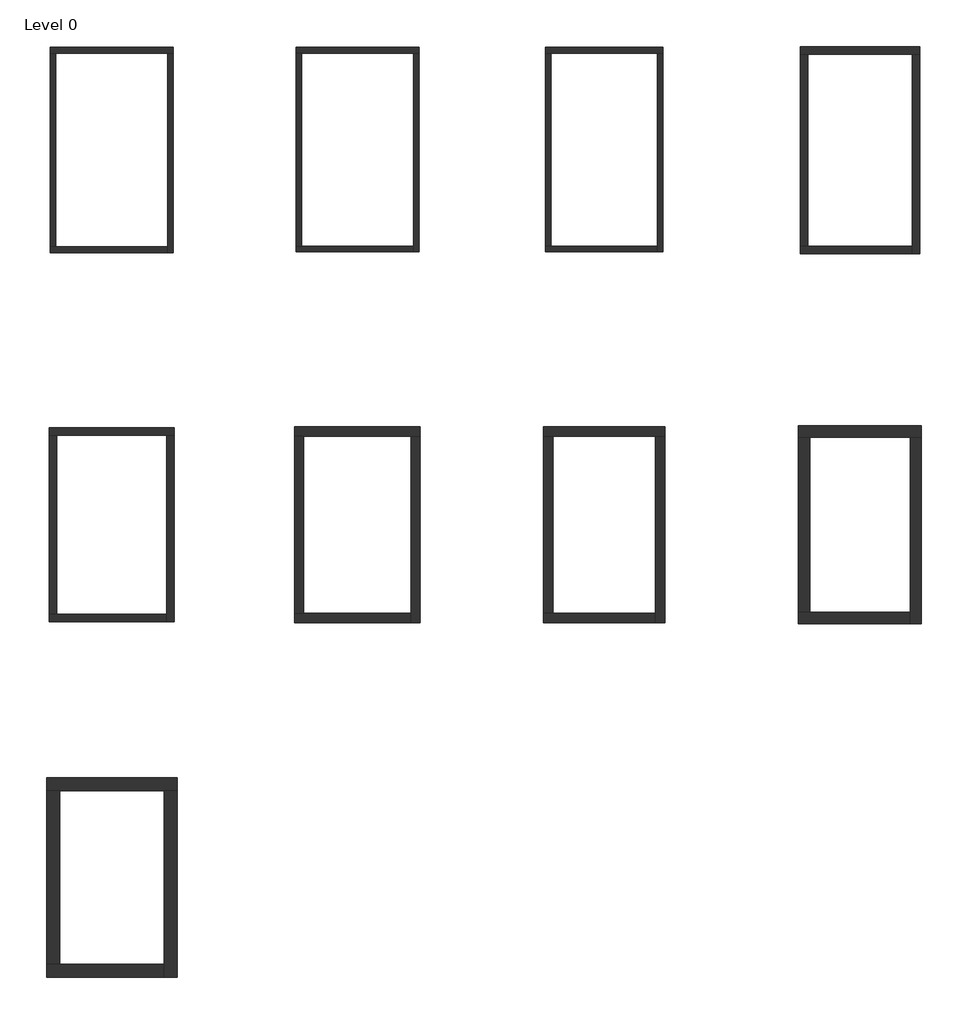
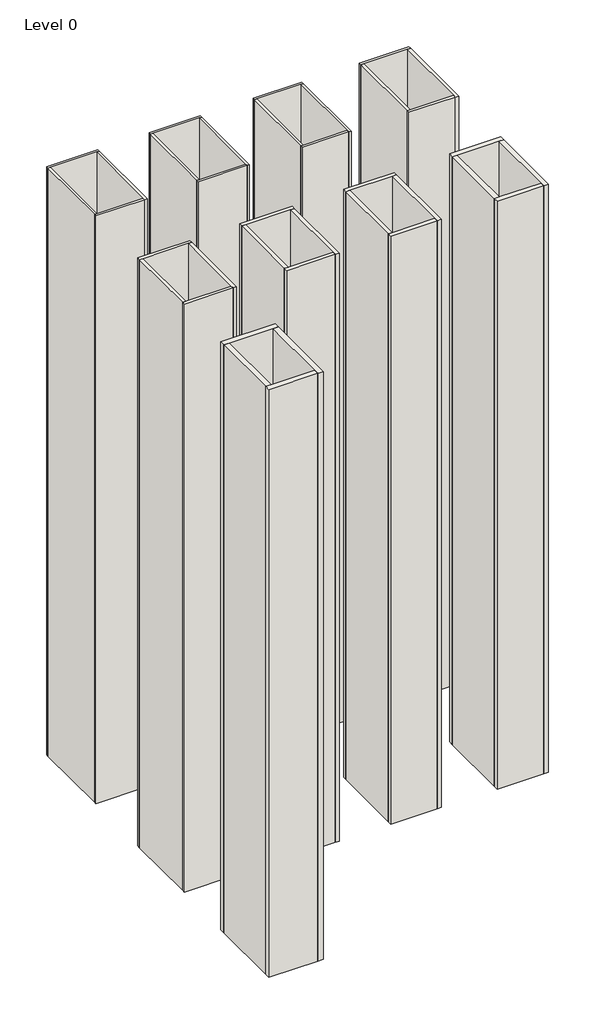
# One storey, incomplete: 36 walls.
"""IFC4 building model written with IfcOpenShell, lengths in millimetres."""

from ifc_helpers import new_model, si_unit, origin, origin_with_axes, place, context, project, spatial, polyline, outline, extrude, faceted_brep, element, save

model = new_model("IFC4")

# Units and contexts
model_context = context("Model", 3, world=origin())
ifc_project = project(units=[si_unit("LENGTHUNIT", "METRE", prefix="MILLI")], contexts=[model_context])

# Site, building, storey
site = spatial("IfcSite", under=ifc_project)
building = spatial("IfcBuilding", under=site)
storey = spatial("IfcBuildingStorey", under=building, Name="Level 0", Elevation=0.0)

# Walls
placement = place(None, origin())
element("IfcWall", 1, ObjectType="D120001 (FC120-1)", at=placement, inside=storey, context=model_context, shape_type="Brep", body=[
    faceted_brep([(657.4421875, 971.4110433, 0.0), (672.4421875, 971.4110433, 0.0), (957.4421875, 971.4110433, 0.0), (972.4421875, 971.4110433, 0.0), (972.4421875, 971.4110433, 4000.0), (957.4421875, 971.4110433, 4000.0), (672.4421875, 971.4110433, 4000.0), (657.4421875, 971.4110433, 4000.0), (657.4421875, 986.4110433, 0.0), (657.4421875, 986.4110433, 4000.0), (972.4421875, 986.4110433, 4000.0), (972.4421875, 986.4110433, 0.0)], [[[0, 1, 2, 3, 4, 5, 6, 7]], [[8, 9, 10, 11]], [[3, 2, 1, 0, 8, 11]], [[7, 6, 5, 4, 10, 9]], [[4, 3, 11, 10]], [[0, 7, 9, 8]]]),
])
element("IfcWall", 2, ObjectType="D120001 (FC120-1)", at=placement, inside=storey, context=model_context, shape_type="Brep", body=[
    faceted_brep([(957.4421875, 971.4110433, 0.0), (957.4421875, 453.9110433, 0.0), (957.4421875, 438.9110433, 0.0), (957.4421875, 438.9110433, 4000.0), (957.4421875, 453.9110433, 4000.0), (957.4421875, 971.4110433, 4000.0), (972.4421875, 971.4110433, 0.0), (972.4421875, 971.4110433, 4000.0), (972.4421875, 438.9110433, 4000.0), (972.4421875, 438.9110433, 0.0)], [[[0, 1, 2, 3, 4, 5]], [[6, 7, 8, 9]], [[2, 1, 0, 6, 9]], [[5, 4, 3, 8, 7]], [[0, 5, 7, 6]], [[3, 2, 9, 8]]]),
])
element("IfcWall", 3, ObjectType="D120001 (FC120-1)", at=placement, inside=storey, context=model_context, shape_type="Brep", body=[
    faceted_brep([(957.4421875, 453.9110433, 0.0), (672.4421875, 453.9110433, 0.0), (657.4421875, 453.9110433, 0.0), (657.4421875, 453.9110433, 4000.0), (672.4421875, 453.9110433, 4000.0), (957.4421875, 453.9110433, 4000.0), (957.4421875, 438.9110433, 0.0), (957.4421875, 438.9110433, 4000.0), (657.4421875, 438.9110433, 4000.0), (657.4421875, 438.9110433, 0.0)], [[[0, 1, 2, 3, 4, 5]], [[6, 7, 8, 9]], [[2, 1, 0, 6, 9]], [[5, 4, 3, 8, 7]], [[0, 5, 7, 6]], [[3, 2, 9, 8]]]),
])
element("IfcWall", 4, ObjectType="D120001 (FC120-1)", at=placement, inside=storey, context=model_context, shape_type="SweptSolid", body=[
    extrude(outline(polyline([(672.4421875, 971.4110433), (672.4421875, 453.9110433), (657.4421875, 453.9110433), (657.4421875, 971.4110433), (672.4421875, 971.4110433)])), origin_with_axes(), (0.0, 0.0, 1.0), 4000.0),
])
element("IfcWall", 5, ObjectType="D120001 (FC120-2)", at=placement, inside=storey, context=model_context, shape_type="Brep", body=[
    faceted_brep([(-673.8078125, -53.5889567, 0.0), (-653.8078125, -53.5889567, 0.0), (-358.8078125, -53.5889567, 0.0), (-338.8078125, -53.5889567, 0.0), (-338.8078125, -53.5889567, 4000.0), (-358.8078125, -53.5889567, 4000.0), (-653.8078125, -53.5889567, 4000.0), (-673.8078125, -53.5889567, 4000.0), (-673.8078125, -33.5889567, 0.0), (-673.8078125, -33.5889567, 4000.0), (-338.8078125, -33.5889567, 4000.0), (-338.8078125, -33.5889567, 0.0)], [[[0, 1, 2, 3, 4, 5, 6, 7]], [[8, 9, 10, 11]], [[3, 2, 1, 0, 8, 11]], [[7, 6, 5, 4, 10, 9]], [[4, 3, 11, 10]], [[0, 7, 9, 8]]]),
])
element("IfcWall", 6, ObjectType="D120001 (FC120-2)", at=placement, inside=storey, context=model_context, shape_type="Brep", body=[
    faceted_brep([(-358.8078125, -53.5889567, 0.0), (-358.8078125, -533.5889567, 0.0), (-358.8078125, -553.5889567, 0.0), (-358.8078125, -553.5889567, 4000.0), (-358.8078125, -533.5889567, 4000.0), (-358.8078125, -53.5889567, 4000.0), (-338.8078125, -53.5889567, 0.0), (-338.8078125, -53.5889567, 4000.0), (-338.8078125, -553.5889567, 4000.0), (-338.8078125, -553.5889567, 0.0)], [[[0, 1, 2, 3, 4, 5]], [[6, 7, 8, 9]], [[2, 1, 0, 6, 9]], [[5, 4, 3, 8, 7]], [[0, 5, 7, 6]], [[3, 2, 9, 8]]]),
])
element("IfcWall", 7, ObjectType="D120001 (FC120-2)", at=placement, inside=storey, context=model_context, shape_type="Brep", body=[
    faceted_brep([(-358.8078125, -533.5889567, 0.0), (-653.8078125, -533.5889567, 0.0), (-673.8078125, -533.5889567, 0.0), (-673.8078125, -533.5889567, 4000.0), (-653.8078125, -533.5889567, 4000.0), (-358.8078125, -533.5889567, 4000.0), (-358.8078125, -553.5889567, 0.0), (-358.8078125, -553.5889567, 4000.0), (-673.8078125, -553.5889567, 4000.0), (-673.8078125, -553.5889567, 0.0)], [[[0, 1, 2, 3, 4, 5]], [[6, 7, 8, 9]], [[2, 1, 0, 6, 9]], [[5, 4, 3, 8, 7]], [[0, 5, 7, 6]], [[3, 2, 9, 8]]]),
])
element("IfcWall", 8, ObjectType="D120001 (FC120-2)", at=placement, inside=storey, context=model_context, shape_type="SweptSolid", body=[
    extrude(outline(polyline([(-653.8078125, -53.5889567), (-653.8078125, -533.5889567), (-673.8078125, -533.5889567), (-673.8078125, -53.5889567), (-653.8078125, -53.5889567)])), origin_with_axes(), (0.0, 0.0, 1.0), 4000.0),
])
element("IfcWall", 9, ObjectType="D120001 (FC120-3)", at=placement, inside=storey, context=model_context, shape_type="Brep", body=[
    faceted_brep([(652.4421875, -56.0889567, 0.0), (677.4421875, -56.0889567, 0.0), (952.4421875, -56.0889567, 0.0), (977.4421875, -56.0889567, 0.0), (977.4421875, -56.0889567, 4000.0), (952.4421875, -56.0889567, 4000.0), (677.4421875, -56.0889567, 4000.0), (652.4421875, -56.0889567, 4000.0), (652.4421875, -31.0889567, 0.0), (652.4421875, -31.0889567, 4000.0), (977.4421875, -31.0889567, 4000.0), (977.4421875, -31.0889567, 0.0)], [[[0, 1, 2, 3, 4, 5, 6, 7]], [[8, 9, 10, 11]], [[3, 2, 1, 0, 8, 11]], [[7, 6, 5, 4, 10, 9]], [[4, 3, 11, 10]], [[0, 7, 9, 8]]]),
])
element("IfcWall", 10, ObjectType="D120001 (FC120-3)", at=placement, inside=storey, context=model_context, shape_type="Brep", body=[
    faceted_brep([(952.4421875, -56.0889567, 0.0), (952.4421875, -531.0889567, 0.0), (952.4421875, -556.0889567, 0.0), (952.4421875, -556.0889567, 4000.0), (952.4421875, -531.0889567, 4000.0), (952.4421875, -56.0889567, 4000.0), (977.4421875, -56.0889567, 0.0), (977.4421875, -56.0889567, 4000.0), (977.4421875, -556.0889567, 4000.0), (977.4421875, -556.0889567, 0.0)], [[[0, 1, 2, 3, 4, 5]], [[6, 7, 8, 9]], [[2, 1, 0, 6, 9]], [[5, 4, 3, 8, 7]], [[0, 5, 7, 6]], [[3, 2, 9, 8]]]),
])
element("IfcWall", 11, ObjectType="D120001 (FC120-3)", at=placement, inside=storey, context=model_context, shape_type="Brep", body=[
    faceted_brep([(952.4421875, -531.0889567, 0.0), (677.4421875, -531.0889567, 0.0), (652.4421875, -531.0889567, 0.0), (652.4421875, -531.0889567, 4000.0), (677.4421875, -531.0889567, 4000.0), (952.4421875, -531.0889567, 4000.0), (952.4421875, -556.0889567, 0.0), (952.4421875, -556.0889567, 4000.0), (652.4421875, -556.0889567, 4000.0), (652.4421875, -556.0889567, 0.0)], [[[0, 1, 2, 3, 4, 5]], [[6, 7, 8, 9]], [[2, 1, 0, 6, 9]], [[5, 4, 3, 8, 7]], [[0, 5, 7, 6]], [[3, 2, 9, 8]]]),
])
element("IfcWall", 12, ObjectType="D120001 (FC120-3)", at=placement, inside=storey, context=model_context, shape_type="SweptSolid", body=[
    extrude(outline(polyline([(677.4421875, -56.0889567), (677.4421875, -531.0889567), (652.4421875, -531.0889567), (652.4421875, -56.0889567), (677.4421875, -56.0889567)])), origin_with_axes(), (0.0, 0.0, 1.0), 4000.0),
])
element("IfcWall", 13, ObjectType="D120001 (FC120-4)", at=placement, inside=storey, context=model_context, shape_type="Brep", body=[
    faceted_brep([(1336.1921875, -58.5889567, 0.0), (1366.1921875, -58.5889567, 0.0), (1636.1921875, -58.5889567, 0.0), (1666.1921875, -58.5889567, 0.0), (1666.1921875, -58.5889567, 4000.0), (1636.1921875, -58.5889567, 4000.0), (1366.1921875, -58.5889567, 4000.0), (1336.1921875, -58.5889567, 4000.0), (1336.1921875, -28.5889567, 0.0), (1336.1921875, -28.5889567, 4000.0), (1666.1921875, -28.5889567, 4000.0), (1666.1921875, -28.5889567, 0.0)], [[[0, 1, 2, 3, 4, 5, 6, 7]], [[8, 9, 10, 11]], [[3, 2, 1, 0, 8, 11]], [[7, 6, 5, 4, 10, 9]], [[4, 3, 11, 10]], [[0, 7, 9, 8]]]),
])
element("IfcWall", 14, ObjectType="D120001 (FC120-4)", at=placement, inside=storey, context=model_context, shape_type="Brep", body=[
    faceted_brep([(1636.1921875, -58.5889567, 0.0), (1636.1921875, -528.5889567, 0.0), (1636.1921875, -558.5889567, 0.0), (1636.1921875, -558.5889567, 4000.0), (1636.1921875, -528.5889567, 4000.0), (1636.1921875, -58.5889567, 4000.0), (1666.1921875, -58.5889567, 0.0), (1666.1921875, -58.5889567, 4000.0), (1666.1921875, -558.5889567, 4000.0), (1666.1921875, -558.5889567, 0.0)], [[[0, 1, 2, 3, 4, 5]], [[6, 7, 8, 9]], [[2, 1, 0, 6, 9]], [[5, 4, 3, 8, 7]], [[0, 5, 7, 6]], [[3, 2, 9, 8]]]),
])
element("IfcWall", 15, ObjectType="D120001 (FC120-4)", at=placement, inside=storey, context=model_context, shape_type="Brep", body=[
    faceted_brep([(1636.1921875, -528.5889567, 0.0), (1366.1921875, -528.5889567, 0.0), (1336.1921875, -528.5889567, 0.0), (1336.1921875, -528.5889567, 4000.0), (1366.1921875, -528.5889567, 4000.0), (1636.1921875, -528.5889567, 4000.0), (1636.1921875, -558.5889567, 0.0), (1636.1921875, -558.5889567, 4000.0), (1336.1921875, -558.5889567, 4000.0), (1336.1921875, -558.5889567, 0.0)], [[[0, 1, 2, 3, 4, 5]], [[6, 7, 8, 9]], [[2, 1, 0, 6, 9]], [[5, 4, 3, 8, 7]], [[0, 5, 7, 6]], [[3, 2, 9, 8]]]),
])
element("IfcWall", 16, ObjectType="D120001 (FC120-4)", at=placement, inside=storey, context=model_context, shape_type="SweptSolid", body=[
    extrude(outline(polyline([(1366.1921875, -58.5889567), (1366.1921875, -528.5889567), (1336.1921875, -528.5889567), (1336.1921875, -58.5889567), (1366.1921875, -58.5889567)])), origin_with_axes(), (0.0, 0.0, 1.0), 4000.0),
])
element("IfcWall", 17, ObjectType="D120001 (FC120-5)", at=placement, inside=storey, context=model_context, shape_type="Brep", body=[
    faceted_brep([(-681.3078125, -1007.3389567, 0.0), (-646.3078125, -1007.3389567, 0.0), (-366.3078125, -1007.3389567, 0.0), (-331.3078125, -1007.3389567, 0.0), (-331.3078125, -1007.3389567, 4000.0), (-366.3078125, -1007.3389567, 4000.0), (-646.3078125, -1007.3389567, 4000.0), (-681.3078125, -1007.3389567, 4000.0), (-681.3078125, -972.3389567, 0.0), (-681.3078125, -972.3389567, 4000.0), (-331.3078125, -972.3389567, 4000.0), (-331.3078125, -972.3389567, 0.0)], [[[0, 1, 2, 3, 4, 5, 6, 7]], [[8, 9, 10, 11]], [[3, 2, 1, 0, 8, 11]], [[7, 6, 5, 4, 10, 9]], [[4, 3, 11, 10]], [[0, 7, 9, 8]]]),
])
element("IfcWall", 18, ObjectType="D120001 (FC120-5)", at=placement, inside=storey, context=model_context, shape_type="Brep", body=[
    faceted_brep([(-366.3078125, -1007.3389567, 0.0), (-366.3078125, -1472.3389567, 0.0), (-366.3078125, -1507.3389567, 0.0), (-366.3078125, -1507.3389567, 4000.0), (-366.3078125, -1472.3389567, 4000.0), (-366.3078125, -1007.3389567, 4000.0), (-331.3078125, -1007.3389567, 0.0), (-331.3078125, -1007.3389567, 4000.0), (-331.3078125, -1507.3389567, 4000.0), (-331.3078125, -1507.3389567, 0.0)], [[[0, 1, 2, 3, 4, 5]], [[6, 7, 8, 9]], [[2, 1, 0, 6, 9]], [[5, 4, 3, 8, 7]], [[0, 5, 7, 6]], [[3, 2, 9, 8]]]),
])
element("IfcWall", 19, ObjectType="D120001 (FC120-5)", at=placement, inside=storey, context=model_context, shape_type="Brep", body=[
    faceted_brep([(-366.3078125, -1472.3389567, 0.0), (-646.3078125, -1472.3389567, 0.0), (-681.3078125, -1472.3389567, 0.0), (-681.3078125, -1472.3389567, 4000.0), (-646.3078125, -1472.3389567, 4000.0), (-366.3078125, -1472.3389567, 4000.0), (-366.3078125, -1507.3389567, 0.0), (-366.3078125, -1507.3389567, 4000.0), (-681.3078125, -1507.3389567, 4000.0), (-681.3078125, -1507.3389567, 0.0)], [[[0, 1, 2, 3, 4, 5]], [[6, 7, 8, 9]], [[2, 1, 0, 6, 9]], [[5, 4, 3, 8, 7]], [[0, 5, 7, 6]], [[3, 2, 9, 8]]]),
])
element("IfcWall", 20, ObjectType="D120001 (FC120-5)", at=placement, inside=storey, context=model_context, shape_type="SweptSolid", body=[
    extrude(outline(polyline([(-646.3078125, -1007.3389567), (-646.3078125, -1472.3389567), (-681.3078125, -1472.3389567), (-681.3078125, -1007.3389567), (-646.3078125, -1007.3389567)])), origin_with_axes(), (0.0, 0.0, 1.0), 4000.0),
])
element("IfcWall", 21, ObjectType="D120001 (FC60-1)", at=placement, inside=storey, context=model_context, shape_type="Brep", body=[
    faceted_brep([(-671.3078125, 971.4110433, 0.0), (-656.3078125, 971.4110433, 0.0), (-356.3078125, 971.4110433, 0.0), (-341.3078125, 971.4110433, 0.0), (-341.3078125, 971.4110433, 4000.0), (-356.3078125, 971.4110433, 4000.0), (-656.3078125, 971.4110433, 4000.0), (-671.3078125, 971.4110433, 4000.0), (-671.3078125, 986.4110433, 0.0), (-671.3078125, 986.4110433, 4000.0), (-341.3078125, 986.4110433, 4000.0), (-341.3078125, 986.4110433, 0.0)], [[[0, 1, 2, 3, 4, 5, 6, 7]], [[8, 9, 10, 11]], [[3, 2, 1, 0, 8, 11]], [[7, 6, 5, 4, 10, 9]], [[4, 3, 11, 10]], [[0, 7, 9, 8]]]),
])
element("IfcWall", 22, ObjectType="D120001 (FC60-1)", at=placement, inside=storey, context=model_context, shape_type="Brep", body=[
    faceted_brep([(-356.3078125, 971.4110433, 0.0), (-356.3078125, 451.4110433, 0.0), (-356.3078125, 436.4110433, 0.0), (-356.3078125, 436.4110433, 4000.0), (-356.3078125, 451.4110433, 4000.0), (-356.3078125, 971.4110433, 4000.0), (-341.3078125, 971.4110433, 0.0), (-341.3078125, 971.4110433, 4000.0), (-341.3078125, 436.4110433, 4000.0), (-341.3078125, 436.4110433, 0.0)], [[[0, 1, 2, 3, 4, 5]], [[6, 7, 8, 9]], [[2, 1, 0, 6, 9]], [[5, 4, 3, 8, 7]], [[0, 5, 7, 6]], [[3, 2, 9, 8]]]),
])
element("IfcWall", 23, ObjectType="D120001 (FC60-1)", at=placement, inside=storey, context=model_context, shape_type="Brep", body=[
    faceted_brep([(-356.3078125, 451.4110433, 0.0), (-656.3078125, 451.4110433, 0.0), (-671.3078125, 451.4110433, 0.0), (-671.3078125, 451.4110433, 4000.0), (-656.3078125, 451.4110433, 4000.0), (-356.3078125, 451.4110433, 4000.0), (-356.3078125, 436.4110433, 0.0), (-356.3078125, 436.4110433, 4000.0), (-671.3078125, 436.4110433, 4000.0), (-671.3078125, 436.4110433, 0.0)], [[[0, 1, 2, 3, 4, 5]], [[6, 7, 8, 9]], [[2, 1, 0, 6, 9]], [[5, 4, 3, 8, 7]], [[0, 5, 7, 6]], [[3, 2, 9, 8]]]),
])
element("IfcWall", 24, ObjectType="D120001 (FC60-1)", at=placement, inside=storey, context=model_context, shape_type="SweptSolid", body=[
    extrude(outline(polyline([(-656.3078125, 971.4110433), (-656.3078125, 451.4110433), (-671.3078125, 451.4110433), (-671.3078125, 971.4110433), (-656.3078125, 971.4110433)])), origin_with_axes(), (0.0, 0.0, 1.0), 4000.0),
])
element("IfcWall", 25, ObjectType="D120001 (FC90-1)", at=placement, inside=storey, context=model_context, shape_type="Brep", body=[
    faceted_brep([(-11.3078125, 971.4110433, 0.0), (3.6921875, 971.4110433, 0.0), (303.6921875, 971.4110433, 0.0), (318.6921875, 971.4110433, 0.0), (318.6921875, 971.4110433, 4000.0), (303.6921875, 971.4110433, 4000.0), (3.6921875, 971.4110433, 4000.0), (-11.3078125, 971.4110433, 4000.0), (-11.3078125, 986.4110433, 0.0), (-11.3078125, 986.4110433, 4000.0), (318.6921875, 986.4110433, 4000.0), (318.6921875, 986.4110433, 0.0)], [[[0, 1, 2, 3, 4, 5, 6, 7]], [[8, 9, 10, 11]], [[3, 2, 1, 0, 8, 11]], [[7, 6, 5, 4, 10, 9]], [[4, 3, 11, 10]], [[0, 7, 9, 8]]]),
])
element("IfcWall", 26, ObjectType="D120001 (FC90-1)", at=placement, inside=storey, context=model_context, shape_type="Brep", body=[
    faceted_brep([(303.6921875, 971.4110433, 0.0), (303.6921875, 453.9110433, 0.0), (303.6921875, 438.9110433, 0.0), (303.6921875, 438.9110433, 4000.0), (303.6921875, 453.9110433, 4000.0), (303.6921875, 971.4110433, 4000.0), (318.6921875, 971.4110433, 0.0), (318.6921875, 971.4110433, 4000.0), (318.6921875, 438.9110433, 4000.0), (318.6921875, 438.9110433, 0.0)], [[[0, 1, 2, 3, 4, 5]], [[6, 7, 8, 9]], [[2, 1, 0, 6, 9]], [[5, 4, 3, 8, 7]], [[0, 5, 7, 6]], [[3, 2, 9, 8]]]),
])
element("IfcWall", 27, ObjectType="D120001 (FC90-1)", at=placement, inside=storey, context=model_context, shape_type="Brep", body=[
    faceted_brep([(303.6921875, 453.9110433, 0.0), (3.6921875, 453.9110433, 0.0), (-11.3078125, 453.9110433, 0.0), (-11.3078125, 453.9110433, 4000.0), (3.6921875, 453.9110433, 4000.0), (303.6921875, 453.9110433, 4000.0), (303.6921875, 438.9110433, 0.0), (303.6921875, 438.9110433, 4000.0), (-11.3078125, 438.9110433, 4000.0), (-11.3078125, 438.9110433, 0.0)], [[[0, 1, 2, 3, 4, 5]], [[6, 7, 8, 9]], [[2, 1, 0, 6, 9]], [[5, 4, 3, 8, 7]], [[0, 5, 7, 6]], [[3, 2, 9, 8]]]),
])
element("IfcWall", 28, ObjectType="D120001 (FC90-1)", at=placement, inside=storey, context=model_context, shape_type="SweptSolid", body=[
    extrude(outline(polyline([(3.6921875, 971.4110433), (3.6921875, 453.9110433), (-11.3078125, 453.9110433), (-11.3078125, 971.4110433), (3.6921875, 971.4110433)])), origin_with_axes(), (0.0, 0.0, 1.0), 4000.0),
])
element("IfcWall", 29, ObjectType="D120001 (FC90-2)", at=placement, inside=storey, context=model_context, shape_type="Brep", body=[
    faceted_brep([(1341.1921875, 968.9110433, 0.0), (1361.1921875, 968.9110433, 0.0), (1641.1921875, 968.9110433, 0.0), (1661.1921875, 968.9110433, 0.0), (1661.1921875, 968.9110433, 4000.0), (1641.1921875, 968.9110433, 4000.0), (1361.1921875, 968.9110433, 4000.0), (1341.1921875, 968.9110433, 4000.0), (1341.1921875, 988.9110433, 0.0), (1341.1921875, 988.9110433, 4000.0), (1661.1921875, 988.9110433, 4000.0), (1661.1921875, 988.9110433, 0.0)], [[[0, 1, 2, 3, 4, 5, 6, 7]], [[8, 9, 10, 11]], [[3, 2, 1, 0, 8, 11]], [[7, 6, 5, 4, 10, 9]], [[4, 3, 11, 10]], [[0, 7, 9, 8]]]),
])
element("IfcWall", 30, ObjectType="D120001 (FC90-2)", at=placement, inside=storey, context=model_context, shape_type="Brep", body=[
    faceted_brep([(1641.1921875, 968.9110433, 0.0), (1641.1921875, 453.9110433, 0.0), (1641.1921875, 433.9110433, 0.0), (1641.1921875, 433.9110433, 4000.0), (1641.1921875, 453.9110433, 4000.0), (1641.1921875, 968.9110433, 4000.0), (1661.1921875, 968.9110433, 0.0), (1661.1921875, 968.9110433, 4000.0), (1661.1921875, 433.9110433, 4000.0), (1661.1921875, 433.9110433, 0.0)], [[[0, 1, 2, 3, 4, 5]], [[6, 7, 8, 9]], [[2, 1, 0, 6, 9]], [[5, 4, 3, 8, 7]], [[0, 5, 7, 6]], [[3, 2, 9, 8]]]),
])
element("IfcWall", 31, ObjectType="D120001 (FC90-2)", at=placement, inside=storey, context=model_context, shape_type="Brep", body=[
    faceted_brep([(1641.1921875, 453.9110433, 0.0), (1361.1921875, 453.9110433, 0.0), (1341.1921875, 453.9110433, 0.0), (1341.1921875, 453.9110433, 4000.0), (1361.1921875, 453.9110433, 4000.0), (1641.1921875, 453.9110433, 4000.0), (1641.1921875, 433.9110433, 0.0), (1641.1921875, 433.9110433, 4000.0), (1341.1921875, 433.9110433, 4000.0), (1341.1921875, 433.9110433, 0.0)], [[[0, 1, 2, 3, 4, 5]], [[6, 7, 8, 9]], [[2, 1, 0, 6, 9]], [[5, 4, 3, 8, 7]], [[0, 5, 7, 6]], [[3, 2, 9, 8]]]),
])
element("IfcWall", 32, ObjectType="D120001 (FC90-2)", at=placement, inside=storey, context=model_context, shape_type="SweptSolid", body=[
    extrude(outline(polyline([(1361.1921875, 968.9110433), (1361.1921875, 453.9110433), (1341.1921875, 453.9110433), (1341.1921875, 968.9110433), (1361.1921875, 968.9110433)])), origin_with_axes(), (0.0, 0.0, 1.0), 4000.0),
])
element("IfcWall", 33, ObjectType="D120001 (FC90-3)", at=placement, inside=storey, context=model_context, shape_type="Brep", body=[
    faceted_brep([(-16.3078125, -56.0889567, 0.0), (8.6921875, -56.0889567, 0.0), (296.1921875, -56.0889567, 0.0), (321.1921875, -56.0889567, 0.0), (321.1921875, -56.0889567, 4000.0), (296.1921875, -56.0889567, 4000.0), (8.6921875, -56.0889567, 4000.0), (-16.3078125, -56.0889567, 4000.0), (-16.3078125, -31.0889567, 0.0), (-16.3078125, -31.0889567, 4000.0), (321.1921875, -31.0889567, 4000.0), (321.1921875, -31.0889567, 0.0)], [[[0, 1, 2, 3, 4, 5, 6, 7]], [[8, 9, 10, 11]], [[3, 2, 1, 0, 8, 11]], [[7, 6, 5, 4, 10, 9]], [[4, 3, 11, 10]], [[0, 7, 9, 8]]]),
])
element("IfcWall", 34, ObjectType="D120001 (FC90-3)", at=placement, inside=storey, context=model_context, shape_type="Brep", body=[
    faceted_brep([(296.1921875, -56.0889567, 0.0), (296.1921875, -531.0889567, 0.0), (296.1921875, -556.0889567, 0.0), (296.1921875, -556.0889567, 4000.0), (296.1921875, -531.0889567, 4000.0), (296.1921875, -56.0889567, 4000.0), (321.1921875, -56.0889567, 0.0), (321.1921875, -56.0889567, 4000.0), (321.1921875, -556.0889567, 4000.0), (321.1921875, -556.0889567, 0.0)], [[[0, 1, 2, 3, 4, 5]], [[6, 7, 8, 9]], [[2, 1, 0, 6, 9]], [[5, 4, 3, 8, 7]], [[0, 5, 7, 6]], [[3, 2, 9, 8]]]),
])
element("IfcWall", 35, ObjectType="D120001 (FC90-3)", at=placement, inside=storey, context=model_context, shape_type="Brep", body=[
    faceted_brep([(296.1921875, -531.0889567, 0.0), (8.6921875, -531.0889567, 0.0), (-16.3078125, -531.0889567, 0.0), (-16.3078125, -531.0889567, 4000.0), (8.6921875, -531.0889567, 4000.0), (296.1921875, -531.0889567, 4000.0), (296.1921875, -556.0889567, 0.0), (296.1921875, -556.0889567, 4000.0), (-16.3078125, -556.0889567, 4000.0), (-16.3078125, -556.0889567, 0.0)], [[[0, 1, 2, 3, 4, 5]], [[6, 7, 8, 9]], [[2, 1, 0, 6, 9]], [[5, 4, 3, 8, 7]], [[0, 5, 7, 6]], [[3, 2, 9, 8]]]),
])
element("IfcWall", 36, ObjectType="D120001 (FC90-3)", at=placement, inside=storey, context=model_context, shape_type="SweptSolid", body=[
    extrude(outline(polyline([(8.6921875, -56.0889567), (8.6921875, -531.0889567), (-16.3078125, -531.0889567), (-16.3078125, -56.0889567), (8.6921875, -56.0889567)])), origin_with_axes(), (0.0, 0.0, 1.0), 4000.0),
])

save(model, "model.ifc")
